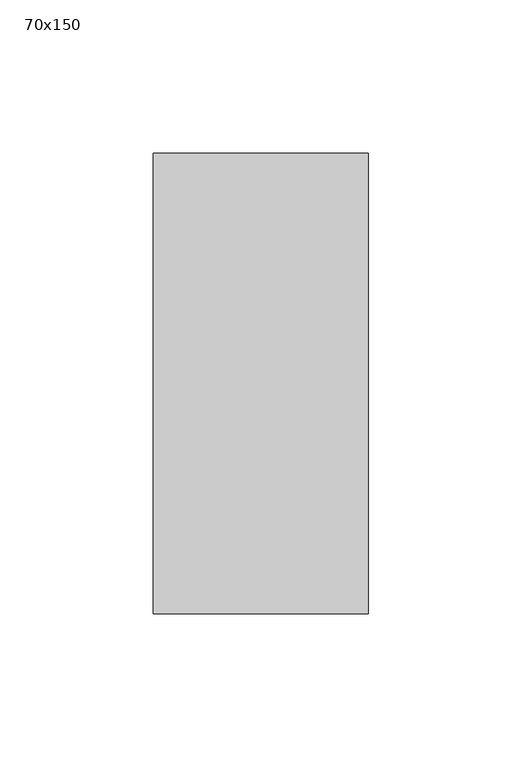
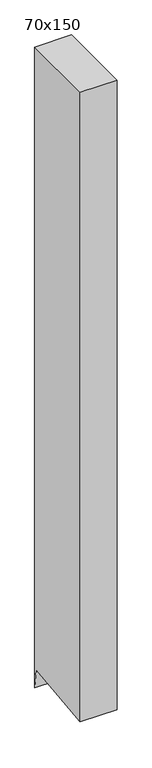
"""IFC4 building model written with IfcOpenShell, lengths in millimetres: member geometry, 長方形のマリオン : 70x150."""

from ifc_helpers import new_model, si_unit, frame, origin, place, context, project, spatial, polyline, outline, extrude, source, transform, mapped, element, save


def member_70x150_9a5e286f(model_context):
    return source(origin(), model_context, "Body", "SweptSolid", [
        extrude(outline(polyline([(-75.0, 0.0), (75.0, 0.0), (75.0, -1288.6902019), (70.6284068, -1249.7391828), (-75.0, -1266.0835087), (-75.0, 0.0)])), frame((-70.0, 0.0, 0.0), z_axis=(1.0, 0.0, 0.0), x_axis=(0.0, 1.0, 0.0)), (0.0, 0.0, 1.0), 70.0),
    ])


if __name__ == "__main__":
    model = new_model("IFC4")
    model_context = context("Model", 3, world=origin())
    ifc_project = project(units=[si_unit("LENGTHUNIT", "METRE", prefix="MILLI")], contexts=[model_context])
    site = spatial("IfcSite", under=ifc_project)
    building = spatial("IfcBuilding", under=site)
    placement = place(None, origin())
    member_70x150_shape = member_70x150_9a5e286f(model_context)
    element("IfcMember", 1, ObjectType="長方形のマリオン : 70x150", at=placement, inside=building, context=model_context, shape_type="MappedRepresentation", body=[
        mapped(member_70x150_shape, transform((0.0, 0.0, 0.0), x_axis=(1.0, 0.0, 0.0), y_axis=(0.0, 1.0, 0.0), z_axis=(0.0, 0.0, 1.0))),
    ])
    save(model, "model.ifc")
